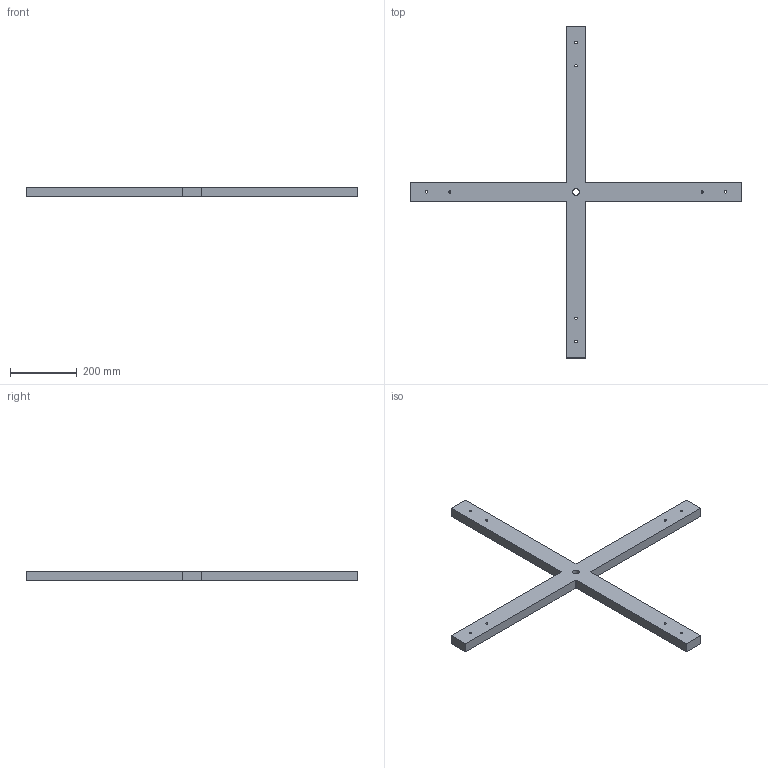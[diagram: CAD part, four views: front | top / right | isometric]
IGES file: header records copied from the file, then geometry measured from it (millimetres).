
Start section: Data from Parasolid IGES Translator 20.0.26, Copyright(c) 2006 Siemens P LM Software. All Rights Reserved.
Global section: file name: 48531.igs; native system: By Siemens PLM Incorporated; preprocessor: XPlus GENERIC/IGES 20.0.26; author: Noname; organization: Noname; date: 20210125.173654; units: millimetre
Bounding box: 998 x 998 x 30 mm (x, y, z)
Surface area: 357998.8 mm2 (no closed solid volume)
Topology: 0 solids, 0 shells, 23 faces, 126 edges, 118 vertices
Faces by surface type: extrusion 14, revolution 9
